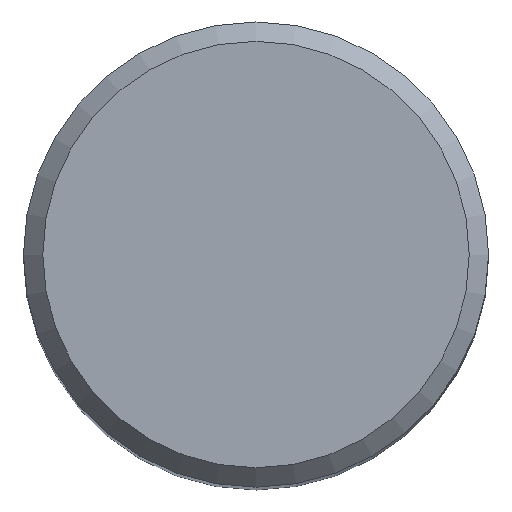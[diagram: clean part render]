
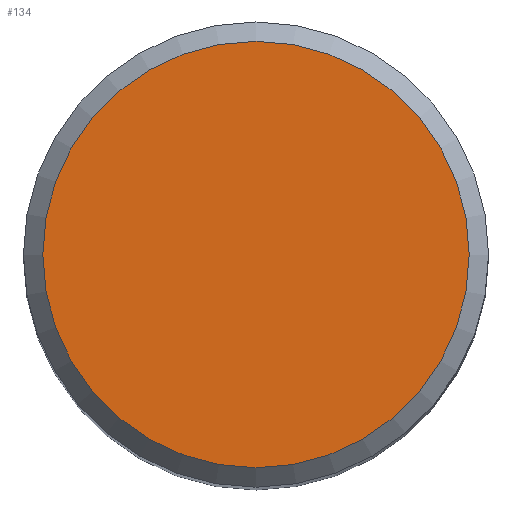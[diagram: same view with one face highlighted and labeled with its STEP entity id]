
A CAD part, top view. The second image highlights one B-rep face of the part: STEP entity #134.
In plain terms, the highlighted planar face has unit normal (0, 0, 1).
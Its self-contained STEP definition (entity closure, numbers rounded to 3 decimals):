
#92=PLANE('',#412);
#94=FACE_OUTER_BOUND('',#215,.T.);
#134=ADVANCED_FACE('',(#94),#92,.F.);
#215=EDGE_LOOP('',(#247));
#247=ORIENTED_EDGE('',*,*,#279,.F.);
#263=VERTEX_POINT('',#601);
#279=EDGE_CURVE('',#263,#263,#295,.T.);
#295=CIRCLE('',#409,5.5);
#409=AXIS2_PLACEMENT_3D('',#600,#484,#485);
#412=AXIS2_PLACEMENT_3D('',#604,#490,#491);
#484=DIRECTION('',(0.,0.,-1.));
#485=DIRECTION('',(1.,0.,0.));
#490=DIRECTION('',(0.,0.,-1.));
#491=DIRECTION('',(1.,0.,0.));
#600=CARTESIAN_POINT('',(0.,0.,0.));
#601=CARTESIAN_POINT('',(5.5,0.,0.));
#604=CARTESIAN_POINT('',(0.,0.,0.));
